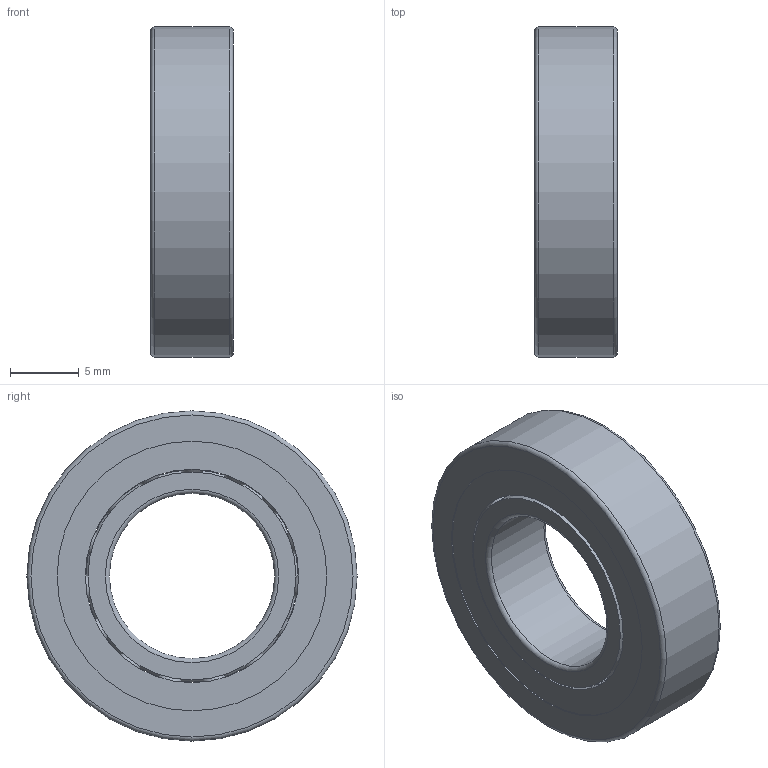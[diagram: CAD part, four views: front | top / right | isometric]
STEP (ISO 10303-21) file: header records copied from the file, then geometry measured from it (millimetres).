
FILE_DESCRIPTION(/* description */ (''),/* implementation_level */ '2;1');
FILE_NAME(/* name */ 'KH_61901_TA.step',/* time_stamp */ '2013-03-07T07:04:34+01:00',/* author */ ('Marian'),/* organization */ ('GMN'),/* preprocessor_version */ 'ST-DEVELOPER v11',/* originating_system */ 'SIEMENS UGS NX 6.0',/* authorisation */ '');
FILE_SCHEMA (('CONFIG_CONTROL_DESIGN'));
Length unit declared in the file: millimetre
Products named in the file (1): KH_61901_TA
Bounding box: 6 x 24 x 24 mm (x, y, z)
Volume: 1664.3 mm3; surface area: 2990.5 mm2
Topology: 20 solids, 20 shells, 62 faces, 146 edges, 94 vertices
Faces by surface type: cylinder 28, sphere 15, plane 12, torus 6, cone 1
Full cylindrical faces by diameter (mm): 2.581 x15, 12 x1, 15.1 x1, 15.4 x1, 15.5 x1, 15.8 x1, 16.721 x1, 18.042 x1, 18.442 x1, 19.6 x2, 20.3 x2, 24 x1
Entity records: 3052 total; most frequent: CARTESIAN_POINT 1912, DIRECTION 190, FACE_BOUND 139, EDGE_LOOP 124, ORIENTED_EDGE 124, AXIS2_PLACEMENT_3D 95, VERTEX_POINT 77, ADVANCED_FACE 62
